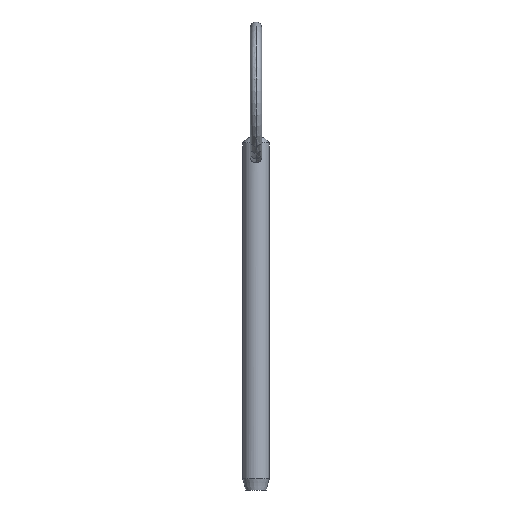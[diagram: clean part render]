
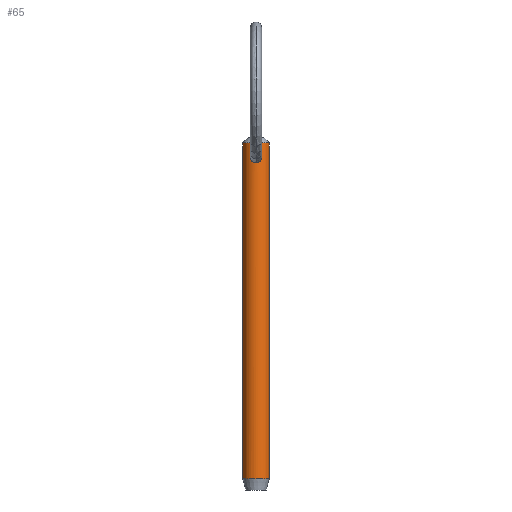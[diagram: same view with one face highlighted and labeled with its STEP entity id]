
A CAD part, front view. The second image highlights one B-rep face of the part: STEP entity #65.
In plain terms, the highlighted cylindrical face has radius 2.38 mm (diameter 4.76 mm), a partial arc.
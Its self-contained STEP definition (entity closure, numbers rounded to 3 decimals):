
#2 = ORIENTED_EDGE ( 'NONE', *, *, #11, .T. ) ;
#5 = CARTESIAN_POINT ( 'NONE',  ( -2.38, 0., 57.04 ) ) ;
#6 = CARTESIAN_POINT ( 'NONE',  ( -0.514, -2.327, 53.649 ) ) ;
#11 = EDGE_CURVE ( 'NONE', #461, #380, #192, .T. ) ;
#29 = CARTESIAN_POINT ( 'NONE',  ( 0.615, -2.301, 55.344 ) ) ;
#59 = EDGE_CURVE ( 'NONE', #297, #249, #182, .T. ) ;
#64 = CARTESIAN_POINT ( 'NONE',  ( 0.996, -2.162, 54.664 ) ) ;
#65 = ADVANCED_FACE ( 'NONE', ( #231, #221 ), #401, .T. ) ;
#67 = CARTESIAN_POINT ( 'NONE',  ( 0.966, -2.176, 54.797 ) ) ;
#71 = CARTESIAN_POINT ( 'NONE',  ( 0.811, -2.24, 53.906 ) ) ;
#72 = CARTESIAN_POINT ( 'NONE',  ( -0.267, -2.368, 55.537 ) ) ;
#73 = VERTEX_POINT ( 'NONE', #460 ) ;
#74 = CARTESIAN_POINT ( 'NONE',  ( 0., -2.38, 55.568 ) ) ;
#80 = DIRECTION ( 'NONE',  ( 0., 0., 1. ) ) ;
#88 = DIRECTION ( 'NONE',  ( 0., 0., -1. ) ) ;
#93 = AXIS2_PLACEMENT_3D ( 'NONE', #351, #313, #393 ) ;
#99 = EDGE_LOOP ( 'NONE', ( #378, #327, #2, #357 ) ) ;
#105 = CARTESIAN_POINT ( 'NONE',  ( 2.38, 0., -3.08 ) ) ;
#106 = EDGE_LOOP ( 'NONE', ( #196, #470 ) ) ;
#111 = CARTESIAN_POINT ( 'NONE',  ( 0., -2.38, 53.525 ) ) ;
#117 = CARTESIAN_POINT ( 'NONE',  ( -0.134, -2.38, 55.568 ) ) ;
#125 = CARTESIAN_POINT ( 'NONE',  ( 0., 0., 53.3 ) ) ;
#132 = CARTESIAN_POINT ( 'NONE',  ( 0., -2.38, 55.568 ) ) ;
#141 = CARTESIAN_POINT ( 'NONE',  ( 2.38, 0., 57.04 ) ) ;
#142 = CARTESIAN_POINT ( 'NONE',  ( 1.003, -2.158, 54.399 ) ) ;
#149 = CARTESIAN_POINT ( 'NONE',  ( 0., -2.38, 53.525 ) ) ;
#155 = CARTESIAN_POINT ( 'NONE',  ( -0.88, -2.219, 55.06 ) ) ;
#160 = CARTESIAN_POINT ( 'NONE',  ( -0.133, -2.38, 53.525 ) ) ;
#171 = AXIS2_PLACEMENT_3D ( 'NONE', #125, #344, #379 ) ;
#182 = LINE ( 'NONE', #302, #355 ) ;
#189 = CARTESIAN_POINT ( 'NONE',  ( 0.865, -2.218, 55.04 ) ) ;
#192 = LINE ( 'NONE', #382, #298 ) ;
#193 = CARTESIAN_POINT ( 'NONE',  ( -0.613, -2.302, 55.346 ) ) ;
#195 = CARTESIAN_POINT ( 'NONE',  ( -0.268, -2.368, 53.551 ) ) ;
#196 = ORIENTED_EDGE ( 'NONE', *, *, #364, .T. ) ;
#221 = FACE_BOUND ( 'NONE', #106, .T. ) ;
#222 = CARTESIAN_POINT ( 'NONE',  ( 0.268, -2.368, 53.551 ) ) ;
#231 = FACE_OUTER_BOUND ( 'NONE', #99, .T. ) ;
#241 = CARTESIAN_POINT ( 'NONE',  ( 0., -2.38, 55.568 ) ) ;
#246 = EDGE_CURVE ( 'NONE', #297, #461, #309, .T. ) ;
#249 = VERTEX_POINT ( 'NONE', #105 ) ;
#257 = CARTESIAN_POINT ( 'NONE',  ( -2.38, 0., -3.08 ) ) ;
#268 = B_SPLINE_CURVE_WITH_KNOTS ( 'NONE', 3,
 ( #241, #312, #400, #290, #29, #322, #189, #67, #64, #142, #287, #436, #71, #402, #434, #222, #324, #149 ),
 .UNSPECIFIED., .F., .F.,
 ( 4, 2, 2, 2, 2, 2, 2, 2, 4 ),
 ( 0.003, 0.003, 0.003, 0.004, 0.004, 0.005, 0.005, 0.005, 0.006 ),
 .UNSPECIFIED. ) ;
#272 = VERTEX_POINT ( 'NONE', #132 ) ;
#287 = CARTESIAN_POINT ( 'NONE',  ( 0.981, -2.169, 54.264 ) ) ;
#290 = CARTESIAN_POINT ( 'NONE',  ( 0.508, -2.328, 55.424 ) ) ;
#293 = CARTESIAN_POINT ( 'NONE',  ( -0.505, -2.329, 55.426 ) ) ;
#297 = VERTEX_POINT ( 'NONE', #141 ) ;
#298 = VECTOR ( 'NONE', #88, 1000. ) ;
#302 = CARTESIAN_POINT ( 'NONE',  ( 2.38, 0., 53.3 ) ) ;
#308 = B_SPLINE_CURVE_WITH_KNOTS ( 'NONE', 3,
 ( #111, #160, #195, #6, #443, #448, #441, #334, #331, #367, #155, #193, #293, #72, #117, #74 ),
 .UNSPECIFIED., .F., .F.,
 ( 4, 2, 2, 2, 2, 2, 2, 4 ),
 ( 0.006, 0.006, 0.007, 0.007, 0.007, 0.008, 0.009, 0.009 ),
 .UNSPECIFIED. ) ;
#309 = CIRCLE ( 'NONE', #93, 2.38 ) ;
#312 = CARTESIAN_POINT ( 'NONE',  ( 0.134, -2.38, 55.568 ) ) ;
#313 = DIRECTION ( 'NONE',  ( 0., 0., -1. ) ) ;
#322 = CARTESIAN_POINT ( 'NONE',  ( 0.793, -2.246, 55.152 ) ) ;
#324 = CARTESIAN_POINT ( 'NONE',  ( 0.133, -2.38, 53.525 ) ) ;
#326 = AXIS2_PLACEMENT_3D ( 'NONE', #410, #80, #449 ) ;
#327 = ORIENTED_EDGE ( 'NONE', *, *, #246, .T. ) ;
#331 = CARTESIAN_POINT ( 'NONE',  ( -1.004, -2.158, 54.399 ) ) ;
#334 = CARTESIAN_POINT ( 'NONE',  ( -0.982, -2.169, 54.265 ) ) ;
#344 = DIRECTION ( 'NONE',  ( 0., 0., -1. ) ) ;
#351 = CARTESIAN_POINT ( 'NONE',  ( 0., 0., 57.04 ) ) ;
#355 = VECTOR ( 'NONE', #419, 1000. ) ;
#357 = ORIENTED_EDGE ( 'NONE', *, *, #374, .T. ) ;
#364 = EDGE_CURVE ( 'NONE', #272, #73, #268, .T. ) ;
#367 = CARTESIAN_POINT ( 'NONE',  ( -0.991, -2.164, 54.801 ) ) ;
#374 = EDGE_CURVE ( 'NONE', #380, #249, #407, .T. ) ;
#378 = ORIENTED_EDGE ( 'NONE', *, *, #59, .F. ) ;
#379 = DIRECTION ( 'NONE',  ( -1., 0., 0. ) ) ;
#380 = VERTEX_POINT ( 'NONE', #257 ) ;
#382 = CARTESIAN_POINT ( 'NONE',  ( -2.38, 0., 53.3 ) ) ;
#393 = DIRECTION ( 'NONE',  ( 1., 0., 0. ) ) ;
#400 = CARTESIAN_POINT ( 'NONE',  ( 0.268, -2.368, 55.537 ) ) ;
#401 = CYLINDRICAL_SURFACE ( 'NONE', #171, 2.38 ) ;
#402 = CARTESIAN_POINT ( 'NONE',  ( 0.625, -2.299, 53.721 ) ) ;
#403 = EDGE_CURVE ( 'NONE', #73, #272, #308, .T. ) ;
#407 = CIRCLE ( 'NONE', #326, 2.38 ) ;
#410 = CARTESIAN_POINT ( 'NONE',  ( 0., 0., -3.08 ) ) ;
#419 = DIRECTION ( 'NONE',  ( 0., 0., -1. ) ) ;
#434 = CARTESIAN_POINT ( 'NONE',  ( 0.513, -2.327, 53.648 ) ) ;
#436 = CARTESIAN_POINT ( 'NONE',  ( 0.885, -2.21, 54.017 ) ) ;
#441 = CARTESIAN_POINT ( 'NONE',  ( -0.885, -2.21, 54.017 ) ) ;
#443 = CARTESIAN_POINT ( 'NONE',  ( -0.626, -2.298, 53.722 ) ) ;
#448 = CARTESIAN_POINT ( 'NONE',  ( -0.811, -2.24, 53.906 ) ) ;
#449 = DIRECTION ( 'NONE',  ( -1., 0., 0. ) ) ;
#460 = CARTESIAN_POINT ( 'NONE',  ( 0., -2.38, 53.525 ) ) ;
#461 = VERTEX_POINT ( 'NONE', #5 ) ;
#470 = ORIENTED_EDGE ( 'NONE', *, *, #403, .T. ) ;
